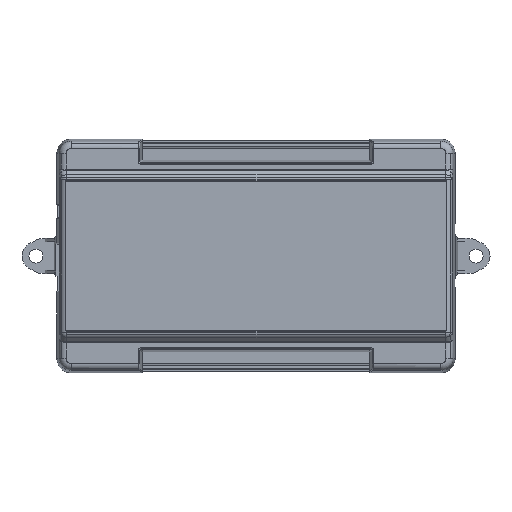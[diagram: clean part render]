
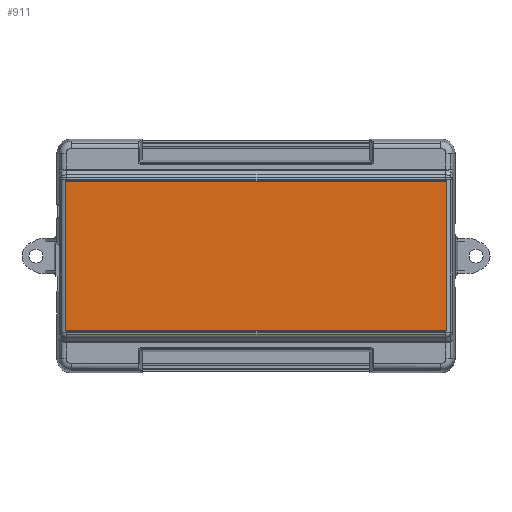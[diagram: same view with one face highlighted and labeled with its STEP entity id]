
A CAD part, top view. The second image highlights one B-rep face of the part: STEP entity #911.
In plain terms, the highlighted planar face has unit normal (0, 0, 1).
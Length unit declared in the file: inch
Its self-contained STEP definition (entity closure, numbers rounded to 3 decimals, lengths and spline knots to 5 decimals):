
#911=ADVANCED_FACE('',(#2493),#2494,.T.);
#2493=FACE_OUTER_BOUND('',#4840,.T.);
#2494=PLANE('',#4841);
#4840=EDGE_LOOP('',(#10104,#10105,#10106,#10107,#10108,#10109,#10110,#10111));
#4841=AXIS2_PLACEMENT_3D('',#10112,#10113,#10114);
#10104=ORIENTED_EDGE('',*,*,#16780,.F.);
#10105=ORIENTED_EDGE('',*,*,#16687,.F.);
#10106=ORIENTED_EDGE('',*,*,#16781,.F.);
#10107=ORIENTED_EDGE('',*,*,#16782,.F.);
#10108=ORIENTED_EDGE('',*,*,#16783,.F.);
#10109=ORIENTED_EDGE('',*,*,#16784,.F.);
#10110=ORIENTED_EDGE('',*,*,#16679,.F.);
#10111=ORIENTED_EDGE('',*,*,#16785,.F.);
#10112=CARTESIAN_POINT('',(0.00249,0.10614,0.02677));
#10113=DIRECTION('',(0.,0.,1.0));
#10114=DIRECTION('',(1.0,0.,0.));
#16679=EDGE_CURVE('',#19632,#19621,#19634,.T.);
#16687=EDGE_CURVE('',#19645,#19647,#19648,.T.);
#16780=EDGE_CURVE('',#19647,#19809,#19810,.T.);
#16781=EDGE_CURVE('',#19811,#19645,#19812,.T.);
#16782=EDGE_CURVE('',#19813,#19811,#19814,.T.);
#16783=EDGE_CURVE('',#19815,#19813,#19816,.T.);
#16784=EDGE_CURVE('',#19621,#19815,#19817,.T.);
#16785=EDGE_CURVE('',#19809,#19632,#19818,.T.);
#19621=VERTEX_POINT('',#23875);
#19632=VERTEX_POINT('',#23886);
#19634=CIRCLE('',#23888,0.00039);
#19645=VERTEX_POINT('',#23902);
#19647=VERTEX_POINT('',#23904);
#19648=LINE('',#23905,#23906);
#19809=VERTEX_POINT('',#24133);
#19810=CIRCLE('',#24134,0.00039);
#19811=VERTEX_POINT('',#24135);
#19812=CIRCLE('',#24136,0.00039);
#19813=VERTEX_POINT('',#24137);
#19814=LINE('',#24138,#24139);
#19815=VERTEX_POINT('',#24140);
#19816=CIRCLE('',#24141,0.00039);
#19817=LINE('',#24142,#24143);
#19818=LINE('',#24144,#24145);
#23875=CARTESIAN_POINT('',(0.21719,0.02182,0.02677));
#23886=CARTESIAN_POINT('',(0.21759,0.02221,0.02677));
#23888=AXIS2_PLACEMENT_3D('',#29377,#29378,#29379);
#23902=CARTESIAN_POINT('',(0.00328,0.10574,0.02677));
#23904=CARTESIAN_POINT('',(0.21719,0.10574,0.02677));
#23905=CARTESIAN_POINT('',(0.05636,0.10574,0.02677));
#23906=VECTOR('',#29389,1.);
#24133=CARTESIAN_POINT('',(0.21759,0.10535,0.02677));
#24134=AXIS2_PLACEMENT_3D('',#29514,#29515,#29516);
#24135=CARTESIAN_POINT('',(0.00289,0.10535,0.02677));
#24136=AXIS2_PLACEMENT_3D('',#29517,#29518,#29519);
#24137=CARTESIAN_POINT('',(0.00289,0.02221,0.02677));
#24138=CARTESIAN_POINT('',(0.00289,0.08496,0.02677));
#24139=VECTOR('',#29520,1.);
#24140=CARTESIAN_POINT('',(0.00328,0.02182,0.02677));
#24141=AXIS2_PLACEMENT_3D('',#29521,#29522,#29523);
#24142=CARTESIAN_POINT('',(0.05636,0.02182,0.02677));
#24143=VECTOR('',#29524,1.);
#24144=CARTESIAN_POINT('',(0.21759,0.08496,0.02677));
#24145=VECTOR('',#29525,1.);
#29377=CARTESIAN_POINT('',(0.21719,0.02221,0.02677));
#29378=DIRECTION('',(0.,0.,-1.0));
#29379=DIRECTION('',(0.707,-0.707,0.));
#29389=DIRECTION('',(1.0,0.,0.));
#29514=CARTESIAN_POINT('',(0.21719,0.10535,0.02677));
#29515=DIRECTION('',(0.,0.,-1.0));
#29516=DIRECTION('',(0.707,0.707,0.));
#29517=CARTESIAN_POINT('',(0.00328,0.10535,0.02677));
#29518=DIRECTION('',(0.,0.,-1.0));
#29519=DIRECTION('',(-0.707,0.707,0.));
#29520=DIRECTION('',(0.,1.0,0.));
#29521=CARTESIAN_POINT('',(0.00328,0.02221,0.02677));
#29522=DIRECTION('',(0.,0.,-1.0));
#29523=DIRECTION('',(-0.707,-0.707,0.));
#29524=DIRECTION('',(-1.0,0.,0.));
#29525=DIRECTION('',(0.,-1.0,0.));
